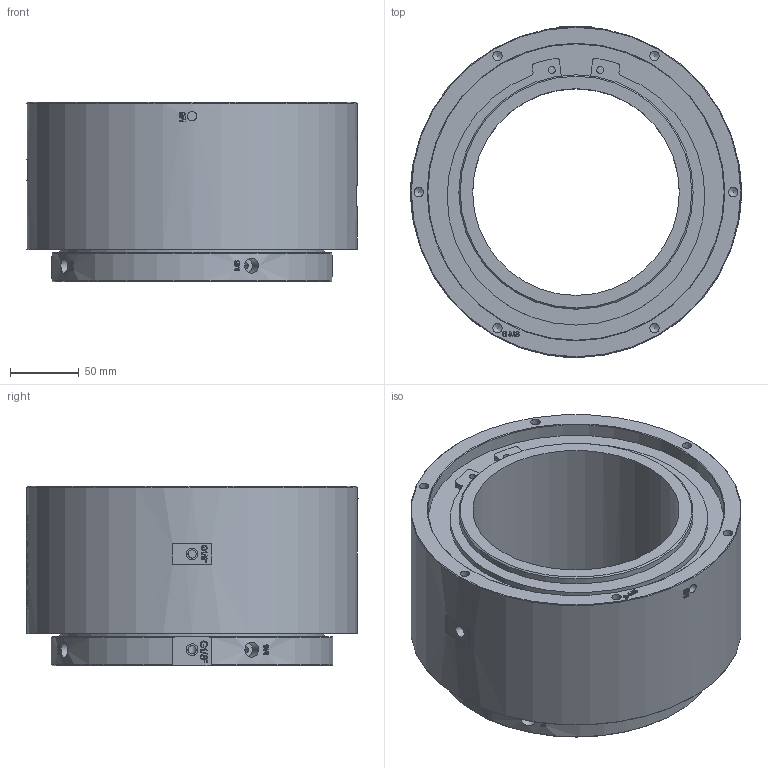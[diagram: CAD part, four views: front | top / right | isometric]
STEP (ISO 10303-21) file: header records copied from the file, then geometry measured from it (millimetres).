
FILE_DESCRIPTION(/* description */ (''),/* implementation_level */ '2;1');
FILE_NAME(/* name */ 'YQ0201-D150-3D模型.stp',/* time_stamp */ '2025-08-04T15:34:00+08:00',/* author */ (''),/* organization */ (''),/* preprocessor_version */ 'ST-DEVELOPER v16.7',/* originating_system */ 'SIEMENS PLM Software NX 12.0',/* authorisation */ '');
FILE_SCHEMA (('AUTOMOTIVE_DESIGN { 1 0 10303 214 3 1 1 1 }'));
Products named in the file (1): Admi06B81AB2g5gk
Bounding box: 240 x 240.9 x 130.4 mm (x, y, z)
Volume: 3155179.7 mm3; surface area: 244199.4 mm2
Topology: 1 solids, 1 shells, 1631 faces, 4486 edges, 2995 vertices
Faces by surface type: extrusion 973, plane 484, cylinder 82, bspline 73, cone 19
Full cylindrical faces by diameter (mm): 5 x6, 6 x6, 6.7 x2, 6.8 x14, 8.5 x4, 11 x4, 150 x1, 166 x1, 170 x1, 192 x1, 215 x1, 225 x1, 240 x1
Entity records: 65152 total; most frequent: CARTESIAN_POINT 31017, ORIENTED_EDGE 8764, B_SPLINE_CURVE_WITH_KNOTS 4519, EDGE_CURVE 4382, DIRECTION 3279, VERTEX_POINT 2962, EDGE_LOOP 1840, ADVANCED_FACE 1631
